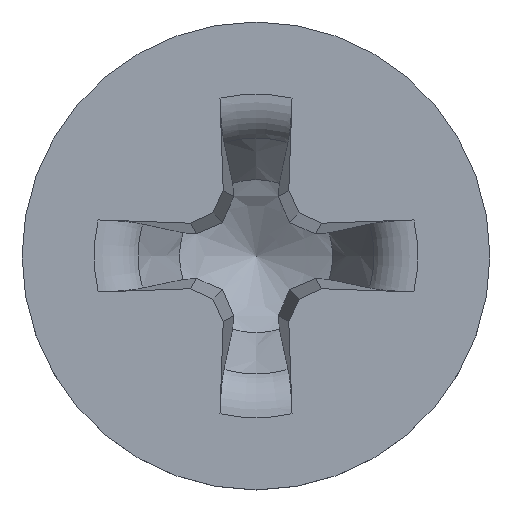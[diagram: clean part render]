
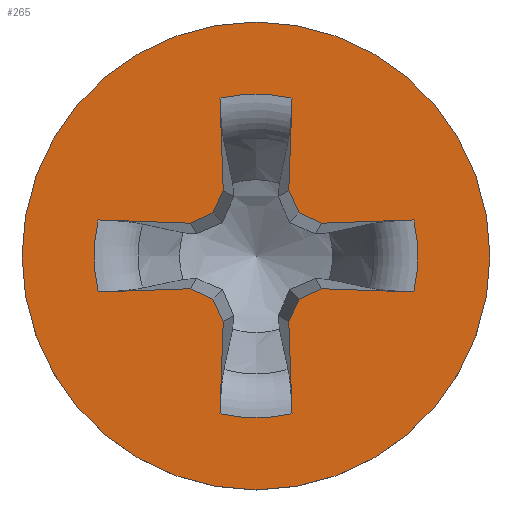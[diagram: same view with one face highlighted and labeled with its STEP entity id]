
A CAD part, top view. The second image highlights one B-rep face of the part: STEP entity #265.
In plain terms, the highlighted planar face has unit normal (0, 0, 1).
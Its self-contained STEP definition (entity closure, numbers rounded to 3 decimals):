
#85=PLANE('',#1354);
#103=LINE('',#1909,#173);
#104=LINE('',#1914,#174);
#105=LINE('',#1916,#175);
#106=LINE('',#1918,#176);
#107=LINE('',#1920,#177);
#108=LINE('',#1924,#178);
#109=LINE('',#1926,#179);
#110=LINE('',#1928,#180);
#111=LINE('',#1930,#181);
#112=LINE('',#1934,#182);
#113=LINE('',#1936,#183);
#114=LINE('',#1938,#184);
#115=LINE('',#1940,#185);
#116=LINE('',#1944,#186);
#117=LINE('',#1946,#187);
#118=LINE('',#1948,#188);
#173=VECTOR('',#1414,1.);
#174=VECTOR('',#1417,1.);
#175=VECTOR('',#1418,1.);
#176=VECTOR('',#1419,1.);
#177=VECTOR('',#1420,1.);
#178=VECTOR('',#1423,1.);
#179=VECTOR('',#1424,1.);
#180=VECTOR('',#1425,1.);
#181=VECTOR('',#1426,1.);
#182=VECTOR('',#1429,1.);
#183=VECTOR('',#1430,1.);
#184=VECTOR('',#1431,1.);
#185=VECTOR('',#1432,1.);
#186=VECTOR('',#1435,1.);
#187=VECTOR('',#1436,1.);
#188=VECTOR('',#1437,1.);
#251=FACE_BOUND('',#431,.T.);
#252=FACE_BOUND('',#432,.T.);
#265=ADVANCED_FACE('',(#251,#252),#85,.F.);
#431=EDGE_LOOP('',(#635));
#432=EDGE_LOOP('',(#636,#637,#638,#639,#640,#641,#642,#643,#644,#645,#646,
#647,#648,#649,#650,#651,#652,#653,#654,#655));
#635=ORIENTED_EDGE('',*,*,#1143,.F.);
#636=ORIENTED_EDGE('',*,*,#1144,.F.);
#637=ORIENTED_EDGE('',*,*,#1145,.T.);
#638=ORIENTED_EDGE('',*,*,#1146,.F.);
#639=ORIENTED_EDGE('',*,*,#1147,.F.);
#640=ORIENTED_EDGE('',*,*,#1148,.F.);
#641=ORIENTED_EDGE('',*,*,#1149,.F.);
#642=ORIENTED_EDGE('',*,*,#1150,.T.);
#643=ORIENTED_EDGE('',*,*,#1151,.F.);
#644=ORIENTED_EDGE('',*,*,#1152,.F.);
#645=ORIENTED_EDGE('',*,*,#1153,.F.);
#646=ORIENTED_EDGE('',*,*,#1154,.F.);
#647=ORIENTED_EDGE('',*,*,#1155,.T.);
#648=ORIENTED_EDGE('',*,*,#1156,.F.);
#649=ORIENTED_EDGE('',*,*,#1157,.F.);
#650=ORIENTED_EDGE('',*,*,#1158,.F.);
#651=ORIENTED_EDGE('',*,*,#1159,.F.);
#652=ORIENTED_EDGE('',*,*,#1160,.T.);
#653=ORIENTED_EDGE('',*,*,#1161,.F.);
#654=ORIENTED_EDGE('',*,*,#1162,.F.);
#655=ORIENTED_EDGE('',*,*,#1163,.F.);
#1021=VERTEX_POINT('',#1908);
#1022=VERTEX_POINT('',#1910);
#1023=VERTEX_POINT('',#1911);
#1024=VERTEX_POINT('',#1913);
#1025=VERTEX_POINT('',#1915);
#1026=VERTEX_POINT('',#1917);
#1027=VERTEX_POINT('',#1919);
#1028=VERTEX_POINT('',#1921);
#1029=VERTEX_POINT('',#1923);
#1030=VERTEX_POINT('',#1925);
#1031=VERTEX_POINT('',#1927);
#1032=VERTEX_POINT('',#1929);
#1033=VERTEX_POINT('',#1931);
#1034=VERTEX_POINT('',#1933);
#1035=VERTEX_POINT('',#1935);
#1036=VERTEX_POINT('',#1937);
#1037=VERTEX_POINT('',#1939);
#1038=VERTEX_POINT('',#1941);
#1039=VERTEX_POINT('',#1943);
#1040=VERTEX_POINT('',#1945);
#1041=VERTEX_POINT('',#1947);
#1143=EDGE_CURVE('',#1021,#1021,#1325,.T.);
#1144=EDGE_CURVE('',#1022,#1023,#103,.T.);
#1145=EDGE_CURVE('',#1022,#1024,#1326,.T.);
#1146=EDGE_CURVE('',#1025,#1024,#104,.T.);
#1147=EDGE_CURVE('',#1026,#1025,#105,.T.);
#1148=EDGE_CURVE('',#1027,#1026,#106,.T.);
#1149=EDGE_CURVE('',#1028,#1027,#107,.T.);
#1150=EDGE_CURVE('',#1028,#1029,#1327,.T.);
#1151=EDGE_CURVE('',#1030,#1029,#108,.T.);
#1152=EDGE_CURVE('',#1031,#1030,#109,.T.);
#1153=EDGE_CURVE('',#1032,#1031,#110,.T.);
#1154=EDGE_CURVE('',#1033,#1032,#111,.T.);
#1155=EDGE_CURVE('',#1033,#1034,#1328,.T.);
#1156=EDGE_CURVE('',#1035,#1034,#112,.T.);
#1157=EDGE_CURVE('',#1036,#1035,#113,.T.);
#1158=EDGE_CURVE('',#1037,#1036,#114,.T.);
#1159=EDGE_CURVE('',#1038,#1037,#115,.T.);
#1160=EDGE_CURVE('',#1038,#1039,#1329,.T.);
#1161=EDGE_CURVE('',#1040,#1039,#116,.T.);
#1162=EDGE_CURVE('',#1041,#1040,#117,.T.);
#1163=EDGE_CURVE('',#1023,#1041,#118,.T.);
#1325=CIRCLE('',#1349,3.5);
#1326=CIRCLE('',#1350,2.422);
#1327=CIRCLE('',#1351,2.422);
#1328=CIRCLE('',#1352,2.422);
#1329=CIRCLE('',#1353,2.422);
#1349=AXIS2_PLACEMENT_3D('',#1907,#1412,#1413);
#1350=AXIS2_PLACEMENT_3D('',#1912,#1415,#1416);
#1351=AXIS2_PLACEMENT_3D('',#1922,#1421,#1422);
#1352=AXIS2_PLACEMENT_3D('',#1932,#1427,#1428);
#1353=AXIS2_PLACEMENT_3D('',#1942,#1433,#1434);
#1354=AXIS2_PLACEMENT_3D('',#1949,#1438,#1439);
#1412=DIRECTION('',(0.,0.,-1.));
#1413=DIRECTION('',(-1.,0.,0.));
#1414=DIRECTION('',(-0.999,-0.035,0.));
#1415=DIRECTION('',(0.,0.,-1.));
#1416=DIRECTION('',(-1.,0.,0.));
#1417=DIRECTION('',(0.999,-0.035,0.));
#1418=DIRECTION('',(0.906,0.423,0.));
#1419=DIRECTION('',(0.423,0.906,0.));
#1420=DIRECTION('',(-0.035,0.999,0.));
#1421=DIRECTION('',(0.,0.,-1.));
#1422=DIRECTION('',(-1.,0.,0.));
#1423=DIRECTION('',(-0.035,-0.999,0.));
#1424=DIRECTION('',(0.423,-0.906,0.));
#1425=DIRECTION('',(0.906,-0.423,0.));
#1426=DIRECTION('',(0.999,0.035,0.));
#1427=DIRECTION('',(0.,0.,-1.));
#1428=DIRECTION('',(-1.,0.,0.));
#1429=DIRECTION('',(-0.999,0.035,0.));
#1430=DIRECTION('',(-0.906,-0.423,0.));
#1431=DIRECTION('',(-0.423,-0.906,0.));
#1432=DIRECTION('',(0.035,-0.999,0.));
#1433=DIRECTION('',(0.,0.,-1.));
#1434=DIRECTION('',(-1.,0.,0.));
#1435=DIRECTION('',(0.035,0.999,0.));
#1436=DIRECTION('',(-0.423,0.906,0.));
#1437=DIRECTION('',(-0.906,0.423,0.));
#1438=DIRECTION('',(0.,0.,-1.));
#1439=DIRECTION('',(-1.,0.,0.));
#1907=CARTESIAN_POINT('',(0.,0.,2.785));
#1908=CARTESIAN_POINT('',(-3.5,0.,2.785));
#1909=CARTESIAN_POINT('',(-0.016,0.456,2.785));
#1910=CARTESIAN_POINT('',(2.362,0.539,2.785));
#1911=CARTESIAN_POINT('',(0.976,0.49,2.785));
#1912=CARTESIAN_POINT('',(0.,0.,2.785));
#1913=CARTESIAN_POINT('',(2.362,-0.539,2.785));
#1914=CARTESIAN_POINT('',(-0.016,-0.456,2.785));
#1915=CARTESIAN_POINT('',(0.976,-0.49,2.785));
#1916=CARTESIAN_POINT('',(0.362,-0.777,2.785));
#1917=CARTESIAN_POINT('',(0.645,-0.645,2.785));
#1918=CARTESIAN_POINT('',(0.777,-0.362,2.785));
#1919=CARTESIAN_POINT('',(0.49,-0.976,2.785));
#1920=CARTESIAN_POINT('',(0.456,0.016,2.785));
#1921=CARTESIAN_POINT('',(0.539,-2.362,2.785));
#1922=CARTESIAN_POINT('',(0.,0.,2.785));
#1923=CARTESIAN_POINT('',(-0.539,-2.362,2.785));
#1924=CARTESIAN_POINT('',(-0.456,0.016,2.785));
#1925=CARTESIAN_POINT('',(-0.49,-0.976,2.785));
#1926=CARTESIAN_POINT('',(-0.777,-0.362,2.785));
#1927=CARTESIAN_POINT('',(-0.645,-0.645,2.785));
#1928=CARTESIAN_POINT('',(-0.362,-0.777,2.785));
#1929=CARTESIAN_POINT('',(-0.976,-0.49,2.785));
#1930=CARTESIAN_POINT('',(0.016,-0.456,2.785));
#1931=CARTESIAN_POINT('',(-2.362,-0.539,2.785));
#1932=CARTESIAN_POINT('',(0.,0.,2.785));
#1933=CARTESIAN_POINT('',(-2.362,0.539,2.785));
#1934=CARTESIAN_POINT('',(0.016,0.456,2.785));
#1935=CARTESIAN_POINT('',(-0.976,0.49,2.785));
#1936=CARTESIAN_POINT('',(-0.362,0.777,2.785));
#1937=CARTESIAN_POINT('',(-0.645,0.645,2.785));
#1938=CARTESIAN_POINT('',(-0.777,0.362,2.785));
#1939=CARTESIAN_POINT('',(-0.49,0.976,2.785));
#1940=CARTESIAN_POINT('',(-0.456,-0.016,2.785));
#1941=CARTESIAN_POINT('',(-0.539,2.362,2.785));
#1942=CARTESIAN_POINT('',(0.,0.,2.785));
#1943=CARTESIAN_POINT('',(0.539,2.362,2.785));
#1944=CARTESIAN_POINT('',(0.456,-0.016,2.785));
#1945=CARTESIAN_POINT('',(0.49,0.976,2.785));
#1946=CARTESIAN_POINT('',(0.777,0.362,2.785));
#1947=CARTESIAN_POINT('',(0.645,0.645,2.785));
#1948=CARTESIAN_POINT('',(0.362,0.777,2.785));
#1949=CARTESIAN_POINT('',(0.,0.,2.785));
